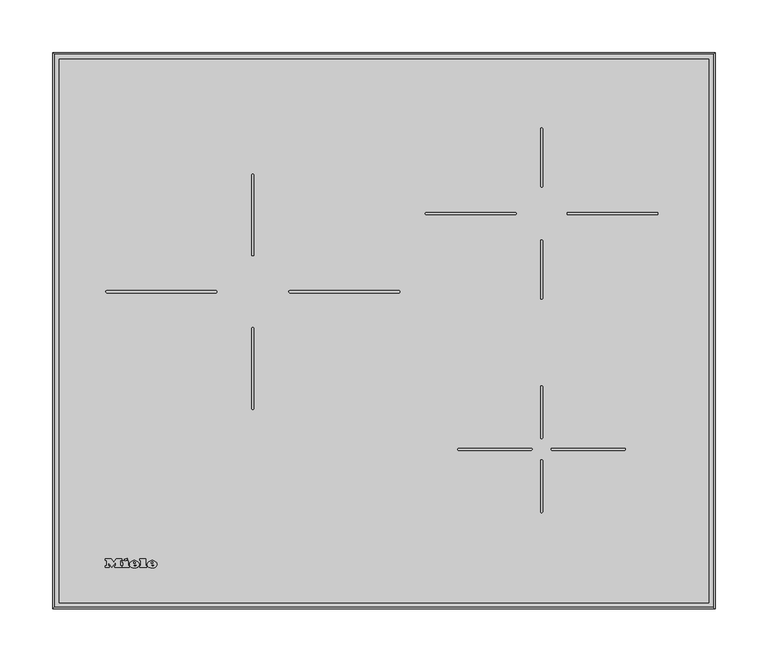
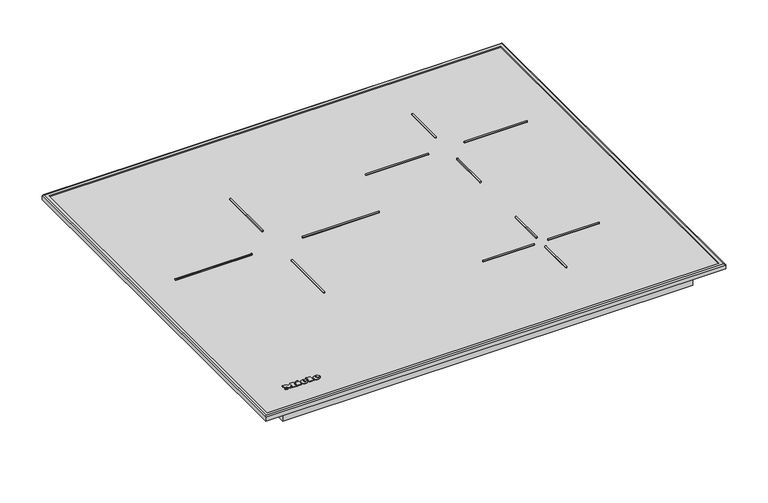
"""IFC4 building model written with IfcOpenShell, lengths in millimetres: proxy geometry, 12418210_IB_KM7360FR : 26736010_IB_12418210_KM7360FR."""

from ifc_helpers import new_model, si_unit, point, frame, frame_2d, origin, origin_with_axes, place, context, project, spatial, polyline, circle_curve, ellipse_curve, trimmed, segment, composite_curve, outline, extrude, source, transform, mapped, element, save
from ifc_brep_helpers import plane_surface, cylinder_surface, revolved_surface, extruded_surface, advanced_brep


def specialty_equipment_f053b758(model_context):
    return source(origin(), model_context, "Body", "SolidModel", [
        advanced_brep(
        [(-219.911984, 41.066, 5.0000007), (-219.911984, 41.874, 5.0000007), (-214.559984, 41.874, 5.0000007), (-223.871984, 41.874, 5.0000007), (-221.671984, 39.17, 5.0000007), (-214.695984, 41.066, 5.0000007), (-217.111984, 41.066, 5.0000007), (-219.015984, 40.17, 5.0000007), (-219.911984, 42.898, 5.0000007), (-219.911984, 43.77, 5.0000007), (-218.543984, 43.77, 5.0000007), (-218.543984, 42.898, 5.0000007), (-219.911984, 41.066, 4.0000007), (-219.015984, 40.17, 4.0000007), (-217.111984, 41.066, 4.0000007), (-214.695984, 41.066, 4.0000007), (-221.671984, 39.17, 4.0000007), (-223.871984, 41.874, 4.0000007), (-214.559984, 41.874, 4.0000007), (-219.911984, 41.874, 4.0000007), (-219.911984, 42.898, 4.0000007), (-218.543984, 42.898, 4.0000007), (-218.543984, 43.77, 4.0000007), (-219.911984, 43.77, 4.0000007)],
        [
            (0, 1),
            (1, 2),
            (2, 3, ellipse_curve(frame((-219.215984, 41.874, 5.0000007), z_axis=(0.0, 0.0, 1.0), x_axis=(-1.0, 0.0, 0.0)), 4.656, 3.848)),
            (3, 4, circle_curve(frame((-220.7759404, 42.146, 5.0000007), z_axis=(0.0, 0.0, 1.0), x_axis=(0.0, -1.0, 0.0)), 3.1079688)),
            (4, 5, circle_curve(frame((-219.3091904, 44.258, 5.0000007), z_axis=(0.0, 0.0, 1.0), x_axis=(0.0, -1.0, 0.0)), 5.6098607)),
            (5, 6),
            (6, 7, circle_curve(frame((-218.6249252, 41.81, 5.0000007), z_axis=(0.0, 0.0, -1.0), x_axis=(0.0, -1.0, 0.0)), 1.6859795)),
            (7, 0, circle_curve(frame((-219.015984, 41.066, 5.0000007), z_axis=(0.0, 0.0, -1.0), x_axis=(0.0, -1.0, 0.0)), 0.896)),
            (8, 9),
            (9, 10, circle_curve(frame((-219.227984, 43.77, 5.0000007), z_axis=(0.0, 0.0, -1.0), x_axis=(0.0, -1.0, 0.0)), 0.684)),
            (10, 11),
            (11, 8),
            (12, 13, circle_curve(frame((-219.015984, 41.066, 4.0000007), z_axis=(0.0, 0.0, 1.0), x_axis=(0.0, -1.0, 0.0)), 0.896)),
            (13, 14, circle_curve(frame((-218.6249252, 41.81, 4.0000007), z_axis=(0.0, 0.0, 1.0), x_axis=(0.0, -1.0, 0.0)), 1.6859795)),
            (14, 15),
            (15, 16, circle_curve(frame((-219.3091904, 44.258, 4.0000007), z_axis=(0.0, 0.0, -1.0), x_axis=(0.0, -1.0, 0.0)), 5.6098607)),
            (16, 17, circle_curve(frame((-220.7759404, 42.146, 4.0000007), z_axis=(0.0, 0.0, -1.0), x_axis=(0.0, -1.0, 0.0)), 3.1079688)),
            (17, 18, ellipse_curve(frame((-219.215984, 41.874, 4.0000007), z_axis=(0.0, 0.0, -1.0), x_axis=(-1.0, 0.0, 0.0)), 4.656, 3.848)),
            (18, 19),
            (19, 12),
            (20, 21),
            (21, 22),
            (22, 23, circle_curve(frame((-219.227984, 43.77, 4.0000007), z_axis=(0.0, 0.0, 1.0), x_axis=(0.0, -1.0, 0.0)), 0.684)),
            (23, 20),
            (0, 12),
            (19, 1),
            (18, 2),
            (5, 15),
            (14, 6),
            (17, 3),
            (13, 7),
            (16, 4),
            (8, 20),
            (23, 9),
            (22, 10),
            (21, 11),
        ],
        [
            plane_surface(frame((-219.911984, 41.874, 5.0000007), z_axis=(0.0, 0.0, 1.0), x_axis=(0.0, 1.0, 0.0))),
            plane_surface(frame((-219.911984, 41.874, 4.0000007), z_axis=(0.0, 0.0, -1.0), x_axis=(0.0, -1.0, 0.0))),
            plane_surface(frame((-219.911984, 41.066, 5.0000007), z_axis=(1.0, 0.0, 0.0), x_axis=(0.0, 0.0, -1.0))),
            plane_surface(frame((-219.911984, 41.874, 5.0000007), z_axis=(0.0, -1.0, 0.0), x_axis=(0.0, 0.0, -1.0))),
            plane_surface(frame((-214.695984, 41.066, 5.0000007), z_axis=(0.0, 1.0, 0.0), x_axis=(0.0, 0.0, -1.0))),
            extruded_surface(trimmed(ellipse_curve(frame((-219.215984, 41.874, 3.0000007), z_axis=(0.0, 0.0, 1.0), x_axis=(-1.0, 0.0, 0.0)), 4.656, 3.848), [point((-214.559984, 41.874, 3.0000007))], [point((-223.871984, 41.874, 3.0000007))], True, "CARTESIAN"), (0.0, 0.0, 1.0), 1.0),
            revolved_surface(polyline([(-218.6249252, 40.1240205, 4.0000007), (-218.6249252, 40.1240205, 5.0000007)]), (-218.6249252, 41.81, 4.0000007), (0.0, 0.0, -1.0)),
            revolved_surface(polyline([(-219.015984, 40.17, 4.0000007), (-219.015984, 40.17, 5.0000007)]), (-219.015984, 41.066, 4.0000007), (0.0, 0.0, -1.0)),
            cylinder_surface(frame((-220.7759404, 42.146, 4.0000007), z_axis=(0.0, 0.0, 1.0), x_axis=(0.0, -1.0, 0.0)), 3.1079688),
            cylinder_surface(frame((-219.3091904, 44.258, 4.0000007), z_axis=(0.0, 0.0, 1.0), x_axis=(0.0, -1.0, 0.0)), 5.6098607),
            plane_surface(frame((-219.911984, 42.898, 5.0000007), z_axis=(1.0, 0.0, 0.0), x_axis=(0.0, 0.0, -1.0))),
            revolved_surface(polyline([(-219.227984, 43.086000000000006, 4.0000007), (-219.227984, 43.086000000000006, 5.0000007)]), (-219.227984, 43.77, 4.0000007), (0.0, 0.0, -1.0)),
            plane_surface(frame((-218.543984, 43.77, 5.0000007), z_axis=(-1.0, 0.0, 0.0), x_axis=(0.0, 0.0, -1.0))),
            plane_surface(frame((-218.543984, 42.898, 5.0000007), z_axis=(0.0, 1.0, 0.0), x_axis=(0.0, 0.0, -1.0))),
        ],
        [
            (0, [[1, 2, 3, 4, 5, 6, 7, 8], [9, 10, 11, 12]]),
            (1, [[13, 14, 15, 16, 17, 18, 19, 20], [21, 22, 23, 24]]),
            (2, [[-1, 25, -20, 26]]),
            (3, [[-2, -26, -19, 27]]),
            (4, [[-6, 28, -15, 29]]),
            (5, [[-3, -27, -18, 30]]),
            (6, [[-7, -29, -14, 31]]),
            (7, [[-8, -31, -13, -25]]),
            (8, [[-4, -30, -17, 32]]),
            (9, [[-5, -32, -16, -28]]),
            (10, [[-9, 33, -24, 34]]),
            (11, [[-10, -34, -23, 35]]),
            (12, [[-11, -35, -22, 36]]),
            (13, [[-12, -36, -21, -33]]),
        ],
    ),
        advanced_brep(
        [(-236.607984, 41.066, 5.0000007), (-236.607984, 41.874, 5.0000007), (-231.255984, 41.874, 5.0000007), (-240.567984, 41.874, 5.0000007), (-238.367984, 39.17, 5.0000007), (-231.391984, 41.066, 5.0000007), (-233.807984, 41.066, 5.0000007), (-235.711984, 40.17, 5.0000007), (-236.607984, 42.898, 5.0000007), (-236.607984, 43.77, 5.0000007), (-235.239984, 43.77, 5.0000007), (-235.239984, 42.898, 5.0000007), (-236.607984, 41.066, 4.0000007), (-235.711984, 40.17, 4.0000007), (-233.807984, 41.066, 4.0000007), (-231.391984, 41.066, 4.0000007), (-238.367984, 39.17, 4.0000007), (-240.567984, 41.874, 4.0000007), (-231.255984, 41.874, 4.0000007), (-236.607984, 41.874, 4.0000007), (-236.607984, 42.898, 4.0000007), (-235.239984, 42.898, 4.0000007), (-235.239984, 43.77, 4.0000007), (-236.607984, 43.77, 4.0000007)],
        [
            (0, 1),
            (1, 2),
            (2, 3, ellipse_curve(frame((-235.911984, 41.874, 5.0000007), z_axis=(0.0, 0.0, 1.0), x_axis=(-1.0, 0.0, 0.0)), 4.656, 3.848)),
            (3, 4, circle_curve(frame((-237.4719404, 42.146, 5.0000007), z_axis=(0.0, 0.0, 1.0), x_axis=(0.0, -1.0, 0.0)), 3.1079688)),
            (4, 5, circle_curve(frame((-236.0051904, 44.258, 5.0000007), z_axis=(0.0, 0.0, 1.0), x_axis=(0.0, -1.0, 0.0)), 5.6098607)),
            (5, 6),
            (6, 7, circle_curve(frame((-235.3209252, 41.81, 5.0000007), z_axis=(0.0, 0.0, -1.0), x_axis=(0.0, -1.0, 0.0)), 1.6859795)),
            (7, 0, circle_curve(frame((-235.711984, 41.066, 5.0000007), z_axis=(0.0, 0.0, -1.0), x_axis=(0.0, -1.0, 0.0)), 0.896)),
            (8, 9),
            (9, 10, circle_curve(frame((-235.923984, 43.77, 5.0000007), z_axis=(0.0, 0.0, -1.0), x_axis=(0.0, -1.0, 0.0)), 0.684)),
            (10, 11),
            (11, 8),
            (12, 13, circle_curve(frame((-235.711984, 41.066, 4.0000007), z_axis=(0.0, 0.0, 1.0), x_axis=(0.0, -1.0, 0.0)), 0.896)),
            (13, 14, circle_curve(frame((-235.3209252, 41.81, 4.0000007), z_axis=(0.0, 0.0, 1.0), x_axis=(0.0, -1.0, 0.0)), 1.6859795)),
            (14, 15),
            (15, 16, circle_curve(frame((-236.0051904, 44.258, 4.0000007), z_axis=(0.0, 0.0, -1.0), x_axis=(0.0, -1.0, 0.0)), 5.6098607)),
            (16, 17, circle_curve(frame((-237.4719404, 42.146, 4.0000007), z_axis=(0.0, 0.0, -1.0), x_axis=(0.0, -1.0, 0.0)), 3.1079688)),
            (17, 18, ellipse_curve(frame((-235.911984, 41.874, 4.0000007), z_axis=(0.0, 0.0, -1.0), x_axis=(-1.0, 0.0, 0.0)), 4.656, 3.848)),
            (18, 19),
            (19, 12),
            (20, 21),
            (21, 22),
            (22, 23, circle_curve(frame((-235.923984, 43.77, 4.0000007), z_axis=(0.0, 0.0, 1.0), x_axis=(0.0, -1.0, 0.0)), 0.684)),
            (23, 20),
            (0, 12),
            (19, 1),
            (18, 2),
            (5, 15),
            (14, 6),
            (17, 3),
            (13, 7),
            (16, 4),
            (8, 20),
            (23, 9),
            (22, 10),
            (21, 11),
        ],
        [
            plane_surface(frame((-236.607984, 41.874, 5.0000007), z_axis=(0.0, 0.0, 1.0), x_axis=(0.0, 1.0, 0.0))),
            plane_surface(frame((-236.607984, 41.874, 4.0000007), z_axis=(0.0, 0.0, -1.0), x_axis=(0.0, -1.0, 0.0))),
            plane_surface(frame((-236.607984, 41.066, 5.0000007), z_axis=(1.0, 0.0, 0.0), x_axis=(0.0, 0.0, -1.0))),
            plane_surface(frame((-236.607984, 41.874, 5.0000007), z_axis=(0.0, -1.0, 0.0), x_axis=(0.0, 0.0, -1.0))),
            plane_surface(frame((-231.391984, 41.066, 5.0000007), z_axis=(0.0, 1.0, 0.0), x_axis=(0.0, 0.0, -1.0))),
            extruded_surface(trimmed(ellipse_curve(frame((-235.911984, 41.874, 3.0000007), z_axis=(0.0, 0.0, 1.0), x_axis=(-1.0, 0.0, 0.0)), 4.656, 3.848), [point((-231.255984, 41.874, 3.0000007))], [point((-240.567984, 41.874, 3.0000007))], True, "CARTESIAN"), (0.0, 0.0, 1.0), 1.0),
            revolved_surface(polyline([(-235.3209252, 40.1240205, 4.0000007), (-235.3209252, 40.1240205, 5.0000007)]), (-235.3209252, 41.81, 4.0000007), (0.0, 0.0, -1.0)),
            revolved_surface(polyline([(-235.711984, 40.17, 4.0000007), (-235.711984, 40.17, 5.0000007)]), (-235.711984, 41.066, 4.0000007), (0.0, 0.0, -1.0)),
            cylinder_surface(frame((-237.4719404, 42.146, 4.0000007), z_axis=(0.0, 0.0, 1.0), x_axis=(0.0, -1.0, 0.0)), 3.1079688),
            cylinder_surface(frame((-236.0051904, 44.258, 4.0000007), z_axis=(0.0, 0.0, 1.0), x_axis=(0.0, -1.0, 0.0)), 5.6098607),
            plane_surface(frame((-236.607984, 42.898, 5.0000007), z_axis=(1.0, 0.0, 0.0), x_axis=(0.0, 0.0, -1.0))),
            revolved_surface(polyline([(-235.923984, 43.086000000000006, 4.0000007), (-235.923984, 43.086000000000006, 5.0000007)]), (-235.923984, 43.77, 4.0000007), (0.0, 0.0, -1.0)),
            plane_surface(frame((-235.239984, 43.77, 5.0000007), z_axis=(-1.0, 0.0, 0.0), x_axis=(0.0, 0.0, -1.0))),
            plane_surface(frame((-235.239984, 42.898, 5.0000007), z_axis=(0.0, 1.0, 0.0), x_axis=(0.0, 0.0, -1.0))),
        ],
        [
            (0, [[1, 2, 3, 4, 5, 6, 7, 8], [9, 10, 11, 12]]),
            (1, [[13, 14, 15, 16, 17, 18, 19, 20], [21, 22, 23, 24]]),
            (2, [[-1, 25, -20, 26]]),
            (3, [[-2, -26, -19, 27]]),
            (4, [[-6, 28, -15, 29]]),
            (5, [[-3, -27, -18, 30]]),
            (6, [[-7, -29, -14, 31]]),
            (7, [[-8, -31, -13, -25]]),
            (8, [[-4, -30, -17, 32]]),
            (9, [[-5, -32, -16, -28]]),
            (10, [[-9, 33, -24, 34]]),
            (11, [[-10, -34, -23, 35]]),
            (12, [[-11, -35, -22, 36]]),
            (13, [[-12, -36, -21, -33]]),
        ],
    ),
        extrude(outline(polyline([(-245.351984, 46.698), (-242.631984, 47.962), (-242.031984, 46.666), (-244.743984, 45.402), (-245.351984, 46.698)])), frame((0.0, 0.0, 4.0000007), z_axis=(0.0, 0.0, 1.0), x_axis=(1.0, 0.0, 0.0)), (0.0, 0.0, 1.0), 1.0),
        extrude(outline(polyline([(-247.327984, 45.226), (-241.943984, 45.226), (-241.943984, 40.514), (-241.015984, 40.514), (-241.015984, 39.17), (-247.327984, 39.17), (-247.327984, 40.514), (-246.375984, 40.514), (-246.375984, 43.794), (-247.327984, 43.794), (-247.327984, 45.226)])), frame((0.0, 0.0, 4.0000007), z_axis=(0.0, 0.0, 1.0), x_axis=(1.0, 0.0, 0.0)), (0.0, 0.0, 1.0), 1.0),
        extrude(outline(polyline([(-230.807984, 45.866), (-230.807984, 47.17), (-225.303984, 47.17), (-225.303984, 40.514), (-224.319984, 40.514), (-224.319984, 39.17), (-230.807984, 39.17), (-230.807984, 40.514), (-229.847984, 40.514), (-229.847984, 45.866), (-230.807984, 45.866)])), frame((0.0, 0.0, 4.0000007), z_axis=(0.0, 0.0, 1.0), x_axis=(1.0, 0.0, 0.0)), (0.0, 0.0, 1.0), 1.0),
        extrude(outline(polyline([(-263.271984, 45.866), (-263.271984, 47.17), (-257.695984, 47.17), (-255.351984, 44.17), (-253.015984, 47.17), (-248.143984, 47.17), (-248.143984, 45.866), (-249.159984, 45.866), (-249.159984, 40.514), (-248.143984, 40.514), (-248.143984, 39.17), (-254.527984, 39.17), (-254.527984, 40.514), (-253.543984, 40.514), (-253.543984, 43.9852223), (-257.135984, 39.17), (-260.711984, 43.9171247), (-260.711984, 40.514), (-259.751984, 40.514), (-259.751984, 39.17), (-263.271984, 39.17), (-263.271984, 40.514), (-262.303984, 40.514), (-262.303984, 45.866), (-263.271984, 45.866)])), frame((0.0, 0.0, 4.0000007), z_axis=(0.0, 0.0, 1.0), x_axis=(1.0, 0.0, 0.0)), (0.0, 0.0, 1.0), 1.0),
        extrude(outline(composite_curve([segment(polyline([(174.0, 375.0), (258.0, 375.0)]), True, "CONTINUOUS"), segment(trimmed(circle_curve(frame_2d((258.0, 374.0)), 1.0), [point((258.0, 375.0))], [point((258.0, 373.0))], False, "CARTESIAN"), True, "CONTINUOUS"), segment(polyline([(258.0, 373.0), (174.0, 373.0)]), True, "CONTINUOUS"), segment(trimmed(circle_curve(frame_2d((174.0, 374.0)), 1.0), [point((174.0, 373.0))], [point((174.0, 375.0))], False, "CARTESIAN"), True, "CONTINUOUS")], self_intersect=False)), frame((0.0, 0.0, 4.0000007), z_axis=(0.0, 0.0, 1.0), x_axis=(1.0, 0.0, 0.0)), (0.0, 0.0, 1.0), 1.0),
        extrude(outline(composite_curve([segment(trimmed(circle_curve(frame_2d((149.0, 454.0164244)), 1.0), [point((148.0, 454.0164244))], [point((150.0, 454.0164244))], False, "CARTESIAN"), True, "CONTINUOUS"), segment(polyline([(150.0, 454.0164244), (150.0, 400.0)]), True, "CONTINUOUS"), segment(trimmed(circle_curve(frame_2d((149.0, 400.0)), 1.0), [point((150.0, 400.0))], [point((148.0, 400.0))], False, "CARTESIAN"), True, "CONTINUOUS"), segment(polyline([(148.0, 400.0), (148.0, 454.0164244)]), True, "CONTINUOUS")], self_intersect=False)), frame((0.0, 0.0, 4.0000007), z_axis=(0.0, 0.0, 1.0), x_axis=(1.0, 0.0, 0.0)), (0.0, 0.0, 1.0), 1.0),
        extrude(outline(composite_curve([segment(trimmed(circle_curve(frame_2d((159.0, 151.0)), 1.0), [point((159.0, 150.0))], [point((159.0, 152.0))], False, "CARTESIAN"), True, "CONTINUOUS"), segment(polyline([(159.0, 152.0), (227.2574779, 152.0)]), True, "CONTINUOUS"), segment(trimmed(circle_curve(frame_2d((227.2574779, 151.0)), 1.0), [point((227.2574779, 152.0))], [point((227.2574779, 150.0))], False, "CARTESIAN"), True, "CONTINUOUS"), segment(polyline([(227.2574779, 150.0), (159.0, 150.0)]), True, "CONTINUOUS")], self_intersect=False)), frame((0.0, 0.0, 4.0000007), z_axis=(0.0, 0.0, 1.0), x_axis=(1.0, 0.0, 0.0)), (0.0, 0.0, 1.0), 1.0),
        extrude(outline(composite_curve([segment(polyline([(148.0, 92.0), (148.0, 140.0)]), True, "CONTINUOUS"), segment(trimmed(circle_curve(frame_2d((149.0, 140.0)), 1.0), [point((148.0, 140.0))], [point((150.0, 140.0))], False, "CARTESIAN"), True, "CONTINUOUS"), segment(polyline([(150.0, 140.0), (150.0, 92.0)]), True, "CONTINUOUS"), segment(trimmed(circle_curve(frame_2d((149.0, 92.0)), 1.0), [point((150.0, 92.0))], [point((148.0, 92.0))], False, "CARTESIAN"), True, "CONTINUOUS")], self_intersect=False)), frame((0.0, 0.0, 4.0000007), z_axis=(0.0, 0.0, 1.0), x_axis=(1.0, 0.0, 0.0)), (0.0, 0.0, 1.0), 1.0),
        extrude(outline(composite_curve([segment(polyline([(-125.0, 189.7404504), (-125.0, 265.0)]), True, "CONTINUOUS"), segment(trimmed(circle_curve(frame_2d((-124.0, 265.0)), 1.0), [point((-125.0, 265.0))], [point((-123.0, 265.0))], False, "CARTESIAN"), True, "CONTINUOUS"), segment(polyline([(-123.0, 265.0), (-123.0, 189.7404504)]), True, "CONTINUOUS"), segment(trimmed(circle_curve(frame_2d((-124.0, 189.7404504)), 1.0), [point((-123.0, 189.7404504))], [point((-125.0, 189.7404504))], False, "CARTESIAN"), True, "CONTINUOUS")], self_intersect=False)), frame((0.0, 0.0, 4.0000007), z_axis=(0.0, 0.0, 1.0), x_axis=(1.0, 0.0, 0.0)), (0.0, 0.0, 1.0), 1.0),
        extrude(outline(composite_curve([segment(trimmed(circle_curve(frame_2d((-89.0, 300.0)), 1.0), [point((-89.0, 299.0))], [point((-89.0, 301.0))], False, "CARTESIAN"), True, "CONTINUOUS"), segment(polyline([(-89.0, 301.0), (14.0, 301.0)]), True, "CONTINUOUS"), segment(trimmed(circle_curve(frame_2d((14.0, 300.0)), 1.0), [point((14.0, 301.0))], [point((14.0, 299.0))], False, "CARTESIAN"), True, "CONTINUOUS"), segment(polyline([(14.0, 299.0), (-89.0, 299.0)]), True, "CONTINUOUS")], self_intersect=False)), frame((0.0, 0.0, 4.0000007), z_axis=(0.0, 0.0, 1.0), x_axis=(1.0, 0.0, 0.0)), (0.0, 0.0, 1.0), 1.0),
        extrude(outline(composite_curve([segment(polyline([(148.0, 293.9835756), (148.0, 348.0)]), True, "CONTINUOUS"), segment(trimmed(circle_curve(frame_2d((149.0, 348.0)), 1.0), [point((148.0, 348.0))], [point((150.0, 348.0))], False, "CARTESIAN"), True, "CONTINUOUS"), segment(polyline([(150.0, 348.0), (150.0, 293.9835756)]), True, "CONTINUOUS"), segment(trimmed(circle_curve(frame_2d((149.0, 293.9835756)), 1.0), [point((150.0, 293.9835756))], [point((148.0, 293.9835756))], False, "CARTESIAN"), True, "CONTINUOUS")], self_intersect=False)), frame((0.0, 0.0, 4.0000007), z_axis=(0.0, 0.0, 1.0), x_axis=(1.0, 0.0, 0.0)), (0.0, 0.0, 1.0), 1.0),
        extrude(outline(composite_curve([segment(trimmed(circle_curve(frame_2d((124.0, 374.0)), 1.0), [point((124.0, 375.0))], [point((124.0, 373.0))], False, "CARTESIAN"), True, "CONTINUOUS"), segment(polyline([(124.0, 373.0), (40.0, 373.0)]), True, "CONTINUOUS"), segment(trimmed(circle_curve(frame_2d((40.0, 374.0)), 1.0), [point((40.0, 373.0))], [point((40.0, 375.0))], False, "CARTESIAN"), True, "CONTINUOUS"), segment(polyline([(40.0, 375.0), (124.0, 375.0)]), True, "CONTINUOUS")], self_intersect=False)), frame((0.0, 0.0, 4.0000007), z_axis=(0.0, 0.0, 1.0), x_axis=(1.0, 0.0, 0.0)), (0.0, 0.0, 1.0), 1.0),
        extrude(outline(composite_curve([segment(trimmed(circle_curve(frame_2d((149.0, 210.0)), 1.0), [point((148.0, 210.0))], [point((150.0, 210.0))], False, "CARTESIAN"), True, "CONTINUOUS"), segment(polyline([(150.0, 210.0), (150.0, 162.0)]), True, "CONTINUOUS"), segment(trimmed(circle_curve(frame_2d((149.0, 162.0)), 1.0), [point((150.0, 162.0))], [point((148.0, 162.0))], False, "CARTESIAN"), True, "CONTINUOUS"), segment(polyline([(148.0, 162.0), (148.0, 210.0)]), True, "CONTINUOUS")], self_intersect=False)), frame((0.0, 0.0, 4.0000007), z_axis=(0.0, 0.0, 1.0), x_axis=(1.0, 0.0, 0.0)), (0.0, 0.0, 1.0), 1.0),
        extrude(outline(composite_curve([segment(polyline([(139.0, 150.0), (70.7425221, 150.0)]), True, "CONTINUOUS"), segment(trimmed(circle_curve(frame_2d((70.7425221, 151.0)), 1.0), [point((70.7425221, 150.0))], [point((70.7425221, 152.0))], False, "CARTESIAN"), True, "CONTINUOUS"), segment(polyline([(70.7425221, 152.0), (139.0, 152.0)]), True, "CONTINUOUS"), segment(trimmed(circle_curve(frame_2d((139.0, 151.0)), 1.0), [point((139.0, 152.0))], [point((139.0, 150.0))], False, "CARTESIAN"), True, "CONTINUOUS")], self_intersect=False)), frame((0.0, 0.0, 4.0000007), z_axis=(0.0, 0.0, 1.0), x_axis=(1.0, 0.0, 0.0)), (0.0, 0.0, 1.0), 1.0),
        extrude(outline(composite_curve([segment(polyline([(-159.0, 299.0), (-262.0, 299.0)]), True, "CONTINUOUS"), segment(trimmed(circle_curve(frame_2d((-262.0, 300.0)), 1.0), [point((-262.0, 299.0))], [point((-262.0, 301.0))], False, "CARTESIAN"), True, "CONTINUOUS"), segment(polyline([(-262.0, 301.0), (-159.0, 301.0)]), True, "CONTINUOUS"), segment(trimmed(circle_curve(frame_2d((-159.0, 300.0)), 1.0), [point((-159.0, 301.0))], [point((-159.0, 299.0))], False, "CARTESIAN"), True, "CONTINUOUS")], self_intersect=False)), frame((0.0, 0.0, 4.0000007), z_axis=(0.0, 0.0, 1.0), x_axis=(1.0, 0.0, 0.0)), (0.0, 0.0, 1.0), 1.0),
        extrude(outline(composite_curve([segment(trimmed(circle_curve(frame_2d((-124.0, 410.2595496)), 1.0), [point((-125.0, 410.2595496))], [point((-123.0, 410.2595496))], False, "CARTESIAN"), True, "CONTINUOUS"), segment(polyline([(-123.0, 410.2595496), (-123.0, 335.0)]), True, "CONTINUOUS"), segment(trimmed(circle_curve(frame_2d((-124.0, 335.0)), 1.0), [point((-123.0, 335.0))], [point((-125.0, 335.0))], False, "CARTESIAN"), True, "CONTINUOUS"), segment(polyline([(-125.0, 335.0), (-125.0, 410.2595496)]), True, "CONTINUOUS")], self_intersect=False)), frame((0.0, 0.0, 4.0000007), z_axis=(0.0, 0.0, 1.0), x_axis=(1.0, 0.0, 0.0)), (0.0, 0.0, 1.0), 1.0),
        advanced_brep(
        [(313.0, 526.0, 0.0), (313.0, 526.0, 5.5271728), (313.0, 0.0, 5.5271728), (313.0, 0.0, 0.0), (311.5271728, 524.5271728, 5.8817013), (311.5271728, 524.5271728, 0.0), (311.5271728, 1.4728272, 0.0), (311.5271728, 1.4728272, 5.8817013), (307.2139587, 520.2139587, 7.0), (307.2139587, 520.2139587, 5.8817013), (307.2139587, 5.7860413, 5.8817013), (307.2139587, 5.7860413, 7.0), (311.5271728, 524.5271728, 7.0), (311.5271728, 1.4728272, 7.0), (-313.0, 0.0, 5.5271728), (-313.0, 0.0, 0.0), (-311.5271728, 1.4728272, 0.0), (-311.5271728, 1.4728272, 5.8817013), (-307.2139587, 5.7860413, 5.8817013), (-307.2139587, 5.7860413, 7.0), (-311.5271728, 1.4728272, 7.0), (-313.0, 526.0, 5.5271728), (-313.0, 526.0, 0.0), (-311.5271728, 524.5271728, 0.0), (-311.5271728, 524.5271728, 5.8817013), (-307.2139587, 520.2139587, 5.8817013), (-307.2139587, 520.2139587, 7.0), (-311.5271728, 524.5271728, 7.0)],
        [
            (0, 1),
            (1, 2),
            (2, 3),
            (3, 0),
            (4, 5),
            (5, 6),
            (6, 7),
            (7, 4),
            (8, 9),
            (9, 10),
            (10, 11),
            (11, 8),
            (1, 12, ellipse_curve(frame((311.5271728, 524.5271728, 5.5271728), z_axis=(0.7071067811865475, -0.7071067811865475, 0.0), x_axis=(0.7071067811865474, 0.7071067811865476, 0.0)), 2.0828921, 1.4728272)),
            (12, 13),
            (13, 2, ellipse_curve(frame((311.5271728, 1.4728272, 5.5271728), z_axis=(0.7071067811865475, 0.7071067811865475, 0.0), x_axis=(-0.7071067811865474, 0.7071067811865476, 0.0)), 2.0828921, 1.4728272)),
            (2, 14),
            (14, 15),
            (15, 3),
            (6, 16),
            (16, 17),
            (17, 7),
            (10, 18),
            (18, 19),
            (19, 11),
            (13, 20),
            (20, 14, ellipse_curve(frame((-311.5271728, 1.4728272, 5.5271728), z_axis=(0.7071067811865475, -0.7071067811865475, 0.0), x_axis=(0.7071067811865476, 0.7071067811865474, 0.0)), 2.0828921, 1.4728272)),
            (14, 21),
            (21, 22),
            (22, 15),
            (16, 23),
            (23, 24),
            (24, 17),
            (18, 25),
            (25, 26),
            (26, 19),
            (20, 27),
            (27, 21, ellipse_curve(frame((-311.5271728, 524.5271728, 5.5271728), z_axis=(-0.7071067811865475, -0.7071067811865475, 0.0), x_axis=(0.7071067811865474, -0.7071067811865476, 0.0)), 2.0828921, 1.4728272)),
            (21, 1),
            (0, 22),
            (5, 23),
            (4, 24),
            (9, 25),
            (8, 26),
            (12, 27),
        ],
        [
            plane_surface(frame((313.0, 526.0, 5.5271728), z_axis=(1.0, 0.0, 0.0), x_axis=(0.0, -1.0, 0.0))),
            plane_surface(frame((311.5271728, 524.5271728, 0.0), z_axis=(-1.0, 0.0, 0.0), x_axis=(0.0, -1.0, 0.0))),
            plane_surface(frame((307.2139587, 520.2139587, 5.8817013), z_axis=(-1.0, 0.0, 0.0), x_axis=(0.0, -1.0, 0.0))),
            cylinder_surface(frame((311.5271728, 526.0, 5.5271728), z_axis=(0.0, 1.0, 0.0), x_axis=(1.0, 0.0, 0.0)), 1.4728272),
            plane_surface(frame((313.0, 0.0, 5.5271728), z_axis=(0.0, -1.0, 0.0), x_axis=(-1.0, 0.0, 0.0))),
            plane_surface(frame((311.5271728, 1.4728272, 0.0), z_axis=(0.0, 1.0, 0.0), x_axis=(-1.0, 0.0, 0.0))),
            plane_surface(frame((307.2139587, 5.7860413, 5.8817013), z_axis=(0.0, 1.0, 0.0), x_axis=(-1.0, 0.0, 0.0))),
            cylinder_surface(frame((313.0, 1.4728272, 5.5271728), z_axis=(1.0, 0.0, 0.0), x_axis=(0.0, -1.0, 0.0)), 1.4728272),
            plane_surface(frame((-313.0, 0.0, 5.5271728), z_axis=(-1.0, 0.0, 0.0), x_axis=(0.0, 1.0, 0.0))),
            plane_surface(frame((-311.5271728, 1.4728272, 0.0), z_axis=(1.0, 0.0, 0.0), x_axis=(0.0, 1.0, 0.0))),
            plane_surface(frame((-307.2139587, 5.7860413, 5.8817013), z_axis=(1.0, 0.0, 0.0), x_axis=(0.0, 1.0, 0.0))),
            cylinder_surface(frame((-311.5271728, 0.0, 5.5271728), z_axis=(0.0, -1.0, 0.0), x_axis=(-1.0, 0.0, 0.0)), 1.4728272),
            plane_surface(frame((-313.0, 526.0, 5.5271728), z_axis=(0.0, 1.0, 0.0), x_axis=(1.0, 0.0, 0.0))),
            plane_surface(frame((-313.0, 526.0, 0.0), z_axis=(0.0, 0.0, -1.0), x_axis=(1.0, 0.0, 0.0))),
            plane_surface(frame((-311.5271728, 524.5271728, 0.0), z_axis=(0.0, -1.0, 0.0), x_axis=(1.0, 0.0, 0.0))),
            plane_surface(frame((-311.5271728, 524.5271728, 5.8817013), z_axis=(0.0, 0.0, -1.0), x_axis=(1.0, 0.0, 0.0))),
            plane_surface(frame((-307.2139587, 520.2139587, 5.8817013), z_axis=(0.0, -1.0, 0.0), x_axis=(1.0, 0.0, 0.0))),
            plane_surface(frame((-307.2139587, 520.2139587, 7.0), z_axis=(0.0, 0.0, 1.0), x_axis=(1.0, 0.0, 0.0))),
            cylinder_surface(frame((-313.0, 524.5271728, 5.5271728), z_axis=(-1.0, 0.0, 0.0), x_axis=(0.0, 1.0, 0.0)), 1.4728272),
        ],
        [
            (0, [[1, 2, 3, 4]]),
            (1, [[5, 6, 7, 8]]),
            (2, [[9, 10, 11, 12]]),
            (3, [[13, 14, 15, -2]]),
            (4, [[-3, 16, 17, 18]]),
            (5, [[-7, 19, 20, 21]]),
            (6, [[-11, 22, 23, 24]]),
            (7, [[-15, 25, 26, -16]]),
            (8, [[-17, 27, 28, 29]]),
            (9, [[-20, 30, 31, 32]]),
            (10, [[-23, 33, 34, 35]]),
            (11, [[-26, 36, 37, -27]]),
            (12, [[-28, 38, -1, 39]]),
            (13, [[-18, -29, -39, -4], [40, -30, -19, -6]]),
            (14, [[-31, -40, -5, 41]]),
            (15, [[-21, -32, -41, -8], [42, -33, -22, -10]]),
            (16, [[-34, -42, -9, 43]]),
            (17, [[44, -36, -25, -14], [-24, -35, -43, -12]]),
            (18, [[-37, -44, -13, -38]]),
        ],
    ),
        extrude(outline(polyline([(226.7938197, 483.0), (226.7938197, 365.7202614), (229.0, 365.7202614), (229.0, 79.0), (-64.0, 79.0), (-64.0, 483.0), (226.7938197, 483.0)])), frame((0.0, 0.0, -49.1723575), z_axis=(0.0, 0.0, 1.0), x_axis=(1.0, 0.0, 0.0)), (0.0, 0.0, 1.0), 26.1723575),
        extrude(outline(polyline([(279.0, 507.0), (279.0, 19.0), (-279.0, 19.0), (-279.0, 507.0), (279.0, 507.0)])), frame((0.0, 0.0, -23.0), z_axis=(0.0, 0.0, 1.0), x_axis=(1.0, 0.0, 0.0)), (0.0, 0.0, 1.0), 23.0),
        extrude(outline(polyline([(309.75, 523.0), (309.75, 3.0), (-309.75, 3.0), (-309.75, 523.0), (309.75, 523.0)])), origin_with_axes(), (0.0, 0.0, 1.0), 4.0000007),
        extrude(outline(polyline([(229.6227397, 386.1708126), (237.0, 386.1708126), (237.0, 384.9151088), (230.8784436, 384.9151088), (230.8784436, 381.6188861), (236.529111, 381.6188861), (236.529111, 380.3631822), (230.8784436, 380.3631822), (230.8784436, 377.3808855), (236.843037, 377.3808855), (236.843037, 376.1251816), (229.6227397, 376.1251816), (229.6227397, 386.1708126)])), frame((0.0, 0.0, -55.9814925), z_axis=(0.0, 0.0, 1.0), x_axis=(1.0, 0.0, 0.0)), (0.0, 0.0, 1.0), 1.0),
        extrude(outline(polyline([(238.8835558, 386.1708126), (245.1620752, 386.1708126), (245.1620752, 384.9151088), (240.1392597, 384.9151088), (240.1392597, 376.1251816), (238.8835558, 376.1251816), (238.8835558, 386.1708126)])), frame((0.0, 0.0, -55.9814925), z_axis=(0.0, 0.0, 1.0), x_axis=(1.0, 0.0, 0.0)), (0.0, 0.0, 1.0), 1.0),
        advanced_brep(
        [(214.0, 381.1708126, -42.9814925), (214.0, 381.1708126, -26.9814925), (228.7476293, 381.1708126, -42.9814925), (244.7476293, 381.1708126, -26.9814925), (228.7476293, 381.1708126, -54.9814925), (244.7476293, 381.1708126, -54.9814925)],
        [
            (0, 1, circle_curve(frame((214.0, 381.1708126, -34.9814925), z_axis=(-1.0, 0.0, 0.0), x_axis=(0.0, 0.0, 1.0)), 8.0)),
            (1, 0, circle_curve(frame((214.0, 381.1708126, -34.9814925), z_axis=(-1.0, 0.0, 0.0), x_axis=(0.0, 0.0, 1.0)), 8.0)),
            (0, 2),
            (2, 3, ellipse_curve(frame((236.7476293, 381.1708126, -34.9814925), z_axis=(-0.7071067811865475, 0.0, 0.7071067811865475), x_axis=(-0.7071067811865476, 0.0, -0.7071067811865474)), 11.3137085, 8.0)),
            (3, 1),
            (3, 2, ellipse_curve(frame((236.7476293, 381.1708126, -34.9814925), z_axis=(-0.7071067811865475, 0.0, 0.7071067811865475), x_axis=(-0.7071067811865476, 0.0, -0.7071067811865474)), 11.3137085, 8.0)),
            (4, 5, circle_curve(frame((236.7476293, 381.1708126, -54.9814925), z_axis=(0.0, 0.0, -1.0), x_axis=(1.0, 0.0, 0.0)), 8.0)),
            (5, 4, circle_curve(frame((236.7476293, 381.1708126, -54.9814925), z_axis=(0.0, 0.0, -1.0), x_axis=(1.0, 0.0, 0.0)), 8.0)),
            (2, 4),
            (5, 3),
        ],
        [
            plane_surface(frame((214.0, 0.0, -34.9814925), z_axis=(-1.0, 0.0, 0.0), x_axis=(0.0, -1.0, 0.0))),
            cylinder_surface(frame((214.0, 381.1708126, -34.9814925), z_axis=(-1.0, 0.0, 0.0), x_axis=(0.0, 0.0, 1.0)), 8.0),
            plane_surface(frame((236.7476293, 0.0, -54.9814925), z_axis=(0.0, 0.0, -1.0), x_axis=(0.0, -1.0, 0.0))),
            cylinder_surface(frame((236.7476293, 381.1708126, -34.9814925), z_axis=(0.0, 0.0, 1.0), x_axis=(1.0, 0.0, 0.0)), 8.0),
        ],
        [
            (0, [[1, 2]]),
            (1, [[-1, 3, 4, 5]]),
            (1, [[-2, -5, 6, -3]]),
            (2, [[7, 8]]),
            (3, [[-4, 9, -8, 10]]),
            (3, [[-6, -10, -7, -9]]),
        ],
    ),
    ])


if __name__ == "__main__":
    model = new_model("IFC4")
    model_context = context("Model", 3, world=origin())
    ifc_project = project(units=[si_unit("LENGTHUNIT", "METRE", prefix="MILLI")], contexts=[model_context])
    site = spatial("IfcSite", under=ifc_project)
    building = spatial("IfcBuilding", under=site)
    placement = place(None, origin())
    specialty_equipment_shape = specialty_equipment_f053b758(model_context)
    element("IfcBuildingElementProxy", 1, Name="12418210_IB_KM7360FR : 26736010_IB_12418210_KM7360FR", ObjectType="12418210_IB_KM7360FR : 26736010_IB_12418210_KM7360FR", at=placement, inside=building, context=model_context, shape_type="MappedRepresentation", body=[
        mapped(specialty_equipment_shape, transform((0.0, 0.0, 0.0), x_axis=(1.0, 0.0, 0.0), y_axis=(0.0, 1.0, 0.0), z_axis=(0.0, 0.0, 1.0))),
    ])
    save(model, "model.ifc")
